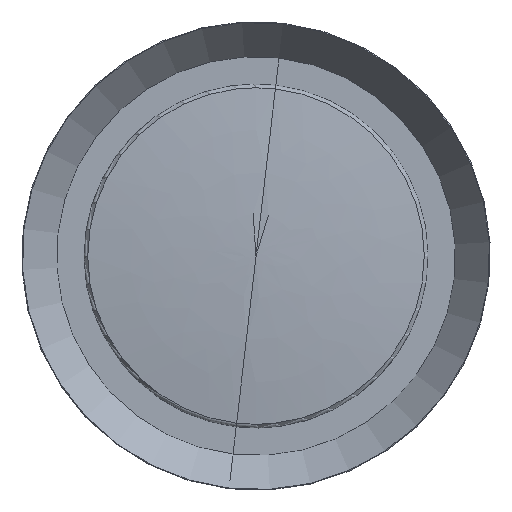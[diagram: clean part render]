
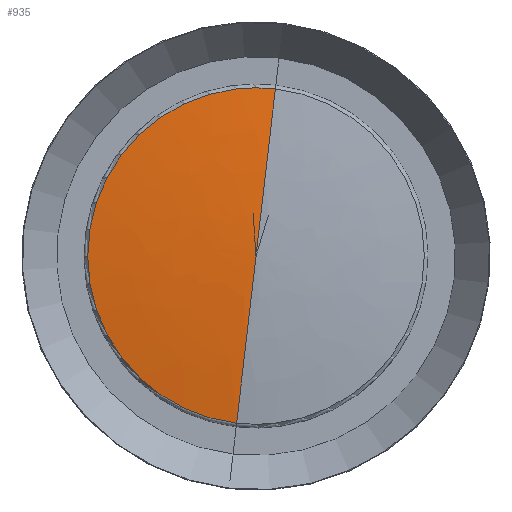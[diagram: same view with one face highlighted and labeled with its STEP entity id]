
A CAD part, top view. The second image highlights one B-rep face of the part: STEP entity #935.
In plain terms, the highlighted free-form (B-spline) face has degree [2, 2] with [3, 9] control points.
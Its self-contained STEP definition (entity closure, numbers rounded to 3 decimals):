
#34=B_SPLINE_CURVE_WITH_KNOTS('',3,(#1511,#1512,#1513,#1514,#1515,#1516,
#1517,#1518,#1519,#1520,#1521,#1522,#1523,#1524,#1525,#1526,#1527,#1528,
#1529,#1530,#1531,#1532),.UNSPECIFIED.,.F.,.F.,(4,3,3,3,3,3,3,4),(0.,
0.142,0.283,0.425,0.568,
0.71,0.855,1.),.UNSPECIFIED.);
#36=B_SPLINE_CURVE_WITH_KNOTS('',3,(#1549,#1550,#1551,#1552,#1553,#1554,
#1555,#1556,#1557,#1558,#1559,#1560,#1561,#1562,#1563,#1564,#1565,#1566,
#1567,#1568,#1569,#1570),.UNSPECIFIED.,.F.,.F.,(4,3,3,3,3,3,3,4),(0.,0.142,
0.283,0.425,0.568,0.71,
0.855,1.),.UNSPECIFIED.);
#37=B_SPLINE_CURVE_WITH_KNOTS('',3,(#1598,#1599,#1600,#1601,#1602,#1603,
#1604,#1605,#1606,#1607,#1608,#1609,#1610,#1611,#1612),.UNSPECIFIED.,.F.,
 .F.,(4,1,1,1,1,1,1,1,1,1,1,1,4),(0.,0.083,0.167,
0.25,0.333,0.417,0.5,0.583,0.667,
0.75,0.833,0.917,1.),.UNSPECIFIED.);
#49=(
BOUNDED_SURFACE()
B_SPLINE_SURFACE(2,2,((#1571,#1572,#1573,#1574,#1575,#1576,#1577,#1578,
#1579),(#1580,#1581,#1582,#1583,#1584,#1585,#1586,#1587,#1588),(#1589,#1590,
#1591,#1592,#1593,#1594,#1595,#1596,#1597)),.UNSPECIFIED.,.F.,.T.,.F.)
B_SPLINE_SURFACE_WITH_KNOTS((3,3),(3,2,2,2,3),(4.589,4.706),
(0.,1.571,3.142,4.712,6.283),
 .UNSPECIFIED.)
GEOMETRIC_REPRESENTATION_ITEM()
RATIONAL_B_SPLINE_SURFACE(((1.,0.707,1.,0.707,1.,
0.707,1.,0.707,1.),(0.998,0.706,
0.998,0.706,0.998,0.706,
0.998,0.706,0.998),(1.,0.707,
1.,0.707,1.,0.707,1.,0.707,1.)))
REPRESENTATION_ITEM('')
SURFACE()
);
#133=FACE_OUTER_BOUND('',#199,.T.);
#199=EDGE_LOOP('',(#737,#738,#739));
#444=VERTEX_POINT('',#1509);
#445=VERTEX_POINT('',#1510);
#446=VERTEX_POINT('',#1533);
#541=EDGE_CURVE('',#444,#445,#34,.T.);
#543=EDGE_CURVE('',#445,#446,#36,.T.);
#544=EDGE_CURVE('',#444,#446,#37,.T.);
#737=ORIENTED_EDGE('',*,*,#543,.T.);
#738=ORIENTED_EDGE('',*,*,#544,.F.);
#739=ORIENTED_EDGE('',*,*,#541,.T.);
#935=ADVANCED_FACE('',(#133),#49,.F.);
#1509=CARTESIAN_POINT('',(0.,-161.465,51.389));
#1510=CARTESIAN_POINT('',(0.,0.,61.952));
#1511=CARTESIAN_POINT('Ctrl Pts',(0.,-161.465,
51.389));
#1512=CARTESIAN_POINT('Ctrl Pts',(0.,-153.888,
52.332));
#1513=CARTESIAN_POINT('Ctrl Pts',(0.,-146.302,
53.213));
#1514=CARTESIAN_POINT('Ctrl Pts',(0.,-138.708,
54.031));
#1515=CARTESIAN_POINT('Ctrl Pts',(0.,-131.116,
54.848));
#1516=CARTESIAN_POINT('Ctrl Pts',(0.,-123.515,
55.603));
#1517=CARTESIAN_POINT('Ctrl Pts',(0.,-115.908,
56.296));
#1518=CARTESIAN_POINT('Ctrl Pts',(0.,-108.301,
56.988));
#1519=CARTESIAN_POINT('Ctrl Pts',(0.,-100.688,
57.617));
#1520=CARTESIAN_POINT('Ctrl Pts',(0.,-93.07,
58.183));
#1521=CARTESIAN_POINT('Ctrl Pts',(0.,-85.326,
58.758));
#1522=CARTESIAN_POINT('Ctrl Pts',(0.,-77.577,
59.268));
#1523=CARTESIAN_POINT('Ctrl Pts',(0.,-69.824,
59.713));
#1524=CARTESIAN_POINT('Ctrl Pts',(0.,-62.198,
60.15));
#1525=CARTESIAN_POINT('Ctrl Pts',(0.,-54.567,
60.525));
#1526=CARTESIAN_POINT('Ctrl Pts',(0.,-46.935,
60.836));
#1527=CARTESIAN_POINT('Ctrl Pts',(0.,-39.114,
61.155));
#1528=CARTESIAN_POINT('Ctrl Pts',(0.,-31.291,
61.407));
#1529=CARTESIAN_POINT('Ctrl Pts',(0.,-23.468,
61.593));
#1530=CARTESIAN_POINT('Ctrl Pts',(0.,-15.645,
61.779));
#1531=CARTESIAN_POINT('Ctrl Pts',(0.,-7.822,
61.898));
#1532=CARTESIAN_POINT('Ctrl Pts',(0.,0.,
61.952));
#1533=CARTESIAN_POINT('',(0.,161.465,51.389));
#1549=CARTESIAN_POINT('Ctrl Pts',(0.,0.,
61.952));
#1550=CARTESIAN_POINT('Ctrl Pts',(0.,7.635,
61.9));
#1551=CARTESIAN_POINT('Ctrl Pts',(0.,15.271,
61.785));
#1552=CARTESIAN_POINT('Ctrl Pts',(0.,22.906,
61.606));
#1553=CARTESIAN_POINT('Ctrl Pts',(0.,30.541,
61.428));
#1554=CARTESIAN_POINT('Ctrl Pts',(0.,38.175,
61.186));
#1555=CARTESIAN_POINT('Ctrl Pts',(0.,45.808,
60.881));
#1556=CARTESIAN_POINT('Ctrl Pts',(0.,53.44,
60.577));
#1557=CARTESIAN_POINT('Ctrl Pts',(0.,61.07,
60.208));
#1558=CARTESIAN_POINT('Ctrl Pts',(0.,68.696,
59.777));
#1559=CARTESIAN_POINT('Ctrl Pts',(0.,76.449,
59.339));
#1560=CARTESIAN_POINT('Ctrl Pts',(0.,84.199,
58.835));
#1561=CARTESIAN_POINT('Ctrl Pts',(0.,91.944,
58.266));
#1562=CARTESIAN_POINT('Ctrl Pts',(0.,99.563,
57.706));
#1563=CARTESIAN_POINT('Ctrl Pts',(0.,107.176,
57.083));
#1564=CARTESIAN_POINT('Ctrl Pts',(0.,114.784,
56.397));
#1565=CARTESIAN_POINT('Ctrl Pts',(0.,122.58,
55.695));
#1566=CARTESIAN_POINT('Ctrl Pts',(0.,130.369,
54.926));
#1567=CARTESIAN_POINT('Ctrl Pts',(0.,138.15,
54.091));
#1568=CARTESIAN_POINT('Ctrl Pts',(0.,145.93,
53.256));
#1569=CARTESIAN_POINT('Ctrl Pts',(0.,153.703,
52.355));
#1570=CARTESIAN_POINT('Ctrl Pts',(0.,161.465,
51.389));
#1571=CARTESIAN_POINT('Ctrl Pts',(0.,161.465,51.389));
#1572=CARTESIAN_POINT('Ctrl Pts',(-161.465,161.465,51.389));
#1573=CARTESIAN_POINT('Ctrl Pts',(-161.465,0.,51.389));
#1574=CARTESIAN_POINT('Ctrl Pts',(-161.465,-161.465,51.389));
#1575=CARTESIAN_POINT('Ctrl Pts',(0.,-161.465,51.389));
#1576=CARTESIAN_POINT('Ctrl Pts',(161.465,-161.465,51.389));
#1577=CARTESIAN_POINT('Ctrl Pts',(161.465,0.,51.389));
#1578=CARTESIAN_POINT('Ctrl Pts',(161.465,161.465,51.389));
#1579=CARTESIAN_POINT('Ctrl Pts',(0.,161.465,51.389));
#1580=CARTESIAN_POINT('Ctrl Pts',(0.,81.042,61.401));
#1581=CARTESIAN_POINT('Ctrl Pts',(-81.042,81.042,61.401));
#1582=CARTESIAN_POINT('Ctrl Pts',(-81.042,0.,61.401));
#1583=CARTESIAN_POINT('Ctrl Pts',(-81.042,-81.042,61.401));
#1584=CARTESIAN_POINT('Ctrl Pts',(0.,-81.042,61.401));
#1585=CARTESIAN_POINT('Ctrl Pts',(81.042,-81.042,61.401));
#1586=CARTESIAN_POINT('Ctrl Pts',(81.042,0.,61.401));
#1587=CARTESIAN_POINT('Ctrl Pts',(81.042,81.042,61.401));
#1588=CARTESIAN_POINT('Ctrl Pts',(0.,81.042,61.401));
#1589=CARTESIAN_POINT('Ctrl Pts',(0.,0.,61.952));
#1590=CARTESIAN_POINT('Ctrl Pts',(0.,0.,
61.952));
#1591=CARTESIAN_POINT('Ctrl Pts',(0.,0.,61.952));
#1592=CARTESIAN_POINT('Ctrl Pts',(0.,0.,
61.952));
#1593=CARTESIAN_POINT('Ctrl Pts',(0.,0.,61.952));
#1594=CARTESIAN_POINT('Ctrl Pts',(0.,0.,
61.952));
#1595=CARTESIAN_POINT('Ctrl Pts',(0.,0.,61.952));
#1596=CARTESIAN_POINT('Ctrl Pts',(0.,0.,
61.952));
#1597=CARTESIAN_POINT('Ctrl Pts',(0.,0.,61.952));
#1598=CARTESIAN_POINT('Ctrl Pts',(0.,-161.465,
51.389));
#1599=CARTESIAN_POINT('Ctrl Pts',(-14.102,-161.508,51.389));
#1600=CARTESIAN_POINT('Ctrl Pts',(-42.265,-157.734,51.389));
#1601=CARTESIAN_POINT('Ctrl Pts',(-81.661,-141.444,51.389));
#1602=CARTESIAN_POINT('Ctrl Pts',(-115.484,-115.483,51.389));
#1603=CARTESIAN_POINT('Ctrl Pts',(-141.439,-81.66,51.389));
#1604=CARTESIAN_POINT('Ctrl Pts',(-157.755,-42.27,51.389));
#1605=CARTESIAN_POINT('Ctrl Pts',(-163.32,0.,
51.389));
#1606=CARTESIAN_POINT('Ctrl Pts',(-157.755,42.27,51.389));
#1607=CARTESIAN_POINT('Ctrl Pts',(-141.439,81.66,51.389));
#1608=CARTESIAN_POINT('Ctrl Pts',(-115.484,115.483,51.389));
#1609=CARTESIAN_POINT('Ctrl Pts',(-81.661,141.444,51.389));
#1610=CARTESIAN_POINT('Ctrl Pts',(-42.265,157.734,51.389));
#1611=CARTESIAN_POINT('Ctrl Pts',(-14.102,161.508,51.389));
#1612=CARTESIAN_POINT('Ctrl Pts',(0.,161.465,51.389));
